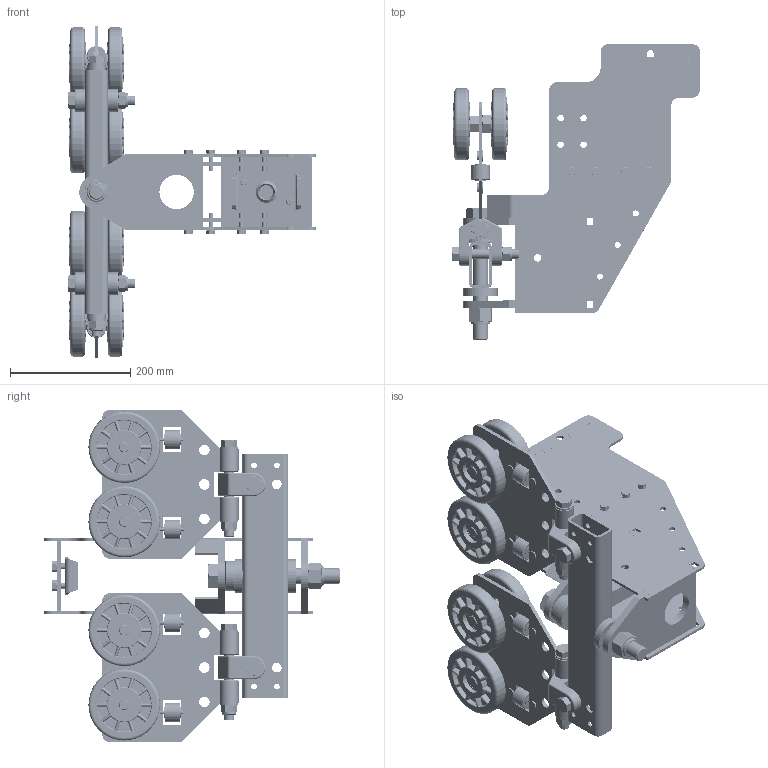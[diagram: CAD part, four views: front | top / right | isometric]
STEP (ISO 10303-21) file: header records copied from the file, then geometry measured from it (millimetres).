
FILE_DESCRIPTION(/* description */ (''),/* implementation_level */ '2;1');
FILE_NAME(/* name */ 'MRES7675.001.stp',/* time_stamp */ '2025-06-20T12:32:31-04:00',/* author */ (''),/* organization */ (''),/* preprocessor_version */ 'ST-DEVELOPER v20',/* originating_system */ 'SIEMENS PLM Software NX2406.8300',/* authorisation */ '');
FILE_SCHEMA (('AUTOMOTIVE_DESIGN { 1 0 10303 214 3 1 1 1 }'));
Products named in the file (1): MRES7675.001
Bounding box: 412.36 x 491.88 x 552.45 mm (x, y, z)
Volume: 4888292.7 mm3; surface area: 1568566.9 mm2
Topology: 238 solids, 246 shells, 8448 faces, 20307 edges, 11003 vertices
Faces by surface type: bspline 3204, cylinder 2185, plane 1372, torus 826, sphere 754, cone 107
Full cylindrical faces by diameter (mm): 1.194 x16, 5.436 x8, 6 x4, 6.35 x8, 6.8 x8, 7.747 x8, 7.938 x20, 8 x8, 8.334 x8, 8.636 x2, 9.525 x8, 10 x2, 10.319 x6, 10.668 x4, 10.922 x8, 12.7 x2, 14.287 x8, 15.875 x16, 16 x8, 16.272 x6, 16.669 x4, 16.916 x16, 16.967 x8, 17 x4, 17.462 x6, 18.936 x16, 19.05 x20, 19.075 x8, 19.845 x8, 20.955 x8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
Entity records: 348574 total; most frequent: CARTESIAN_POINT 121913, ORIENTED_EDGE 36292, DIRECTION 33246, EDGE_CURVE 18146, AXIS2_PLACEMENT_3D 14731, VERTEX_POINT 10814, EDGE_LOOP 9320, ADVANCED_FACE 8448
